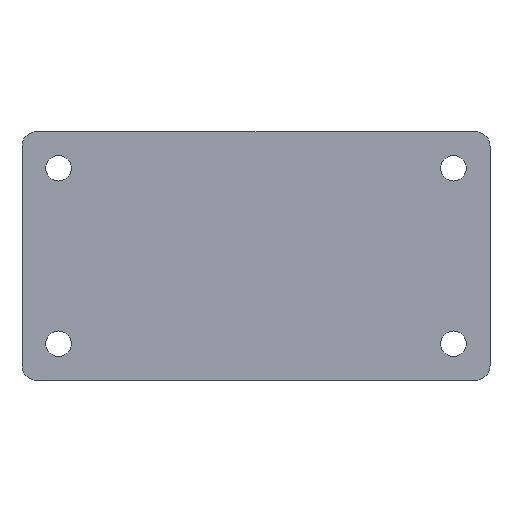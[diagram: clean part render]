
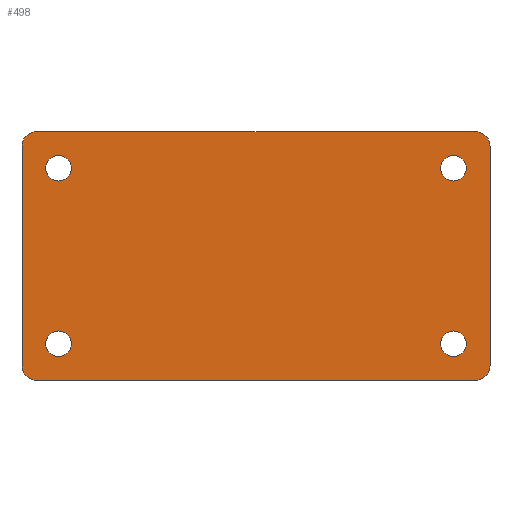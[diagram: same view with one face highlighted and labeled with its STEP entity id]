
A CAD part, front view. The second image highlights one B-rep face of the part: STEP entity #498.
In plain terms, the highlighted planar face has unit normal (0, -1, 0).
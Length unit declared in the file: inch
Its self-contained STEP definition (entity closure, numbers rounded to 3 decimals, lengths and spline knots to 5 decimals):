
#37 = AXIS2_PLACEMENT_3D ( 'NONE', #164, #151, #197 ) ;
#62 = DIRECTION ( 'NONE',  ( 0., -1., 0. ) ) ;
#66 = CARTESIAN_POINT ( 'NONE',  ( -4., 0., 2.125 ) ) ;
#119 = CIRCLE ( 'NONE', #37, 0.21875 ) ;
#142 = VERTEX_POINT ( 'NONE', #2871 ) ;
#151 = DIRECTION ( 'NONE',  ( 0., -1., 0. ) ) ;
#162 = DIRECTION ( 'NONE',  ( 0., 0., -1. ) ) ;
#164 = CARTESIAN_POINT ( 'NONE',  ( -3.375, 0., -1.5 ) ) ;
#166 = CARTESIAN_POINT ( 'NONE',  ( -4., 0., -2.125 ) ) ;
#197 = DIRECTION ( 'NONE',  ( 0., 0., -1. ) ) ;
#207 = CARTESIAN_POINT ( 'NONE',  ( -3.59375, 0., 1.5 ) ) ;
#228 = EDGE_LOOP ( 'NONE', ( #1540, #974 ) ) ;
#260 = AXIS2_PLACEMENT_3D ( 'NONE', #2605, #2597, #162 ) ;
#291 = FACE_OUTER_BOUND ( 'NONE', #2955, .T. ) ;
#316 = ORIENTED_EDGE ( 'NONE', *, *, #1165, .T. ) ;
#348 = AXIS2_PLACEMENT_3D ( 'NONE', #994, #2237, #1629 ) ;
#352 = EDGE_CURVE ( 'NONE', #797, #2248, #1715, .T. ) ;
#375 = LINE ( 'NONE', #166, #2134 ) ;
#442 = CIRCLE ( 'NONE', #2663, 0.25 ) ;
#455 = CARTESIAN_POINT ( 'NONE',  ( 3.75, 0., 1.875 ) ) ;
#467 = DIRECTION ( 'NONE',  ( 0., -1., 0. ) ) ;
#490 = EDGE_LOOP ( 'NONE', ( #558, #1605 ) ) ;
#498 = ADVANCED_FACE ( 'NONE', ( #1220, #2171, #1150, #893, #291 ), #2151, .T. ) ;
#531 = CARTESIAN_POINT ( 'NONE',  ( -3.75, 0., 1.875 ) ) ;
#543 = VERTEX_POINT ( 'NONE', #1795 ) ;
#558 = ORIENTED_EDGE ( 'NONE', *, *, #1103, .F. ) ;
#601 = CARTESIAN_POINT ( 'NONE',  ( -3.75, 0., 2.125 ) ) ;
#635 = AXIS2_PLACEMENT_3D ( 'NONE', #1579, #62, #1811 ) ;
#641 = VERTEX_POINT ( 'NONE', #2528 ) ;
#662 = VECTOR ( 'NONE', #1353, 39.37008 ) ;
#693 = LINE ( 'NONE', #66, #662 ) ;
#697 = CARTESIAN_POINT ( 'NONE',  ( 3.375, 0., 1.5 ) ) ;
#702 = CARTESIAN_POINT ( 'NONE',  ( 4., 0., -1.875 ) ) ;
#705 = DIRECTION ( 'NONE',  ( 0., 0., -1. ) ) ;
#756 = VERTEX_POINT ( 'NONE', #1590 ) ;
#762 = EDGE_CURVE ( 'NONE', #1268, #2358, #119, .T. ) ;
#763 = ORIENTED_EDGE ( 'NONE', *, *, #2351, .F. ) ;
#771 = AXIS2_PLACEMENT_3D ( 'NONE', #2656, #1271, #2851 ) ;
#793 = AXIS2_PLACEMENT_3D ( 'NONE', #1979, #467, #2218 ) ;
#794 = DIRECTION ( 'NONE',  ( 0., 0., -1. ) ) ;
#797 = VERTEX_POINT ( 'NONE', #207 ) ;
#825 = CARTESIAN_POINT ( 'NONE',  ( 3.59375, 0., -1.5 ) ) ;
#851 = VERTEX_POINT ( 'NONE', #601 ) ;
#867 = DIRECTION ( 'NONE',  ( 0., 0., -1. ) ) ;
#893 = FACE_BOUND ( 'NONE', #2571, .T. ) ;
#935 = ORIENTED_EDGE ( 'NONE', *, *, #2117, .F. ) ;
#965 = CARTESIAN_POINT ( 'NONE',  ( -3.75, 0., -1.875 ) ) ;
#966 = CARTESIAN_POINT ( 'NONE',  ( 3.375, 0., -1.5 ) ) ;
#971 = VERTEX_POINT ( 'NONE', #1923 ) ;
#973 = DIRECTION ( 'NONE',  ( 0., 0., -1. ) ) ;
#974 = ORIENTED_EDGE ( 'NONE', *, *, #2197, .F. ) ;
#994 = CARTESIAN_POINT ( 'NONE',  ( -3.375, 0., 1.5 ) ) ;
#1022 = CARTESIAN_POINT ( 'NONE',  ( -3.75, 0., -2.125 ) ) ;
#1041 = CIRCLE ( 'NONE', #635, 0.21875 ) ;
#1057 = EDGE_CURVE ( 'NONE', #1600, #2726, #375, .T. ) ;
#1103 = EDGE_CURVE ( 'NONE', #756, #2327, #1242, .T. ) ;
#1125 = EDGE_CURVE ( 'NONE', #641, #2726, #2102, .T. ) ;
#1131 = DIRECTION ( 'NONE',  ( 0., -1., 0. ) ) ;
#1150 = FACE_BOUND ( 'NONE', #228, .T. ) ;
#1165 = EDGE_CURVE ( 'NONE', #543, #971, #2065, .T. ) ;
#1172 = AXIS2_PLACEMENT_3D ( 'NONE', #2549, #1131, #2750 ) ;
#1173 = CARTESIAN_POINT ( 'NONE',  ( 3.59375, 0., 1.5 ) ) ;
#1194 = CIRCLE ( 'NONE', #793, 0.21875 ) ;
#1202 = CIRCLE ( 'NONE', #771, 0.25 ) ;
#1206 = DIRECTION ( 'NONE',  ( -1., 0., 0. ) ) ;
#1218 = ORIENTED_EDGE ( 'NONE', *, *, #2905, .T. ) ;
#1220 = FACE_BOUND ( 'NONE', #2494, .T. ) ;
#1228 = DIRECTION ( 'NONE',  ( 0., 0., -1. ) ) ;
#1229 = DIRECTION ( 'NONE',  ( 0., 0., -1. ) ) ;
#1242 = CIRCLE ( 'NONE', #2828, 0.21875 ) ;
#1263 = AXIS2_PLACEMENT_3D ( 'NONE', #1408, #2974, #1648 ) ;
#1268 = VERTEX_POINT ( 'NONE', #1479 ) ;
#1271 = DIRECTION ( 'NONE',  ( 0., -1., 0. ) ) ;
#1274 = VERTEX_POINT ( 'NONE', #2623 ) ;
#1282 = EDGE_CURVE ( 'NONE', #1274, #2055, #2290, .T. ) ;
#1310 = ORIENTED_EDGE ( 'NONE', *, *, #1125, .T. ) ;
#1314 = ORIENTED_EDGE ( 'NONE', *, *, #1057, .F. ) ;
#1353 = DIRECTION ( 'NONE',  ( 0., 0., 1. ) ) ;
#1363 = CIRCLE ( 'NONE', #1172, 0.21875 ) ;
#1368 = DIRECTION ( 'NONE',  ( 1., 0., 0. ) ) ;
#1400 = LINE ( 'NONE', #2345, #1435 ) ;
#1408 = CARTESIAN_POINT ( 'NONE',  ( 3.375, 0., -1.5 ) ) ;
#1425 = ORIENTED_EDGE ( 'NONE', *, *, #1282, .F. ) ;
#1435 = VECTOR ( 'NONE', #867, 39.37008 ) ;
#1479 = CARTESIAN_POINT ( 'NONE',  ( -3.59375, 0., -1.5 ) ) ;
#1506 = LINE ( 'NONE', #2728, #1510 ) ;
#1510 = VECTOR ( 'NONE', #1368, 39.37008 ) ;
#1540 = ORIENTED_EDGE ( 'NONE', *, *, #762, .F. ) ;
#1579 = CARTESIAN_POINT ( 'NONE',  ( -3.375, 0., -1.5 ) ) ;
#1590 = CARTESIAN_POINT ( 'NONE',  ( 3.15625, 0., -1.5 ) ) ;
#1593 = CARTESIAN_POINT ( 'NONE',  ( -3.15625, 0., -1.5 ) ) ;
#1600 = VERTEX_POINT ( 'NONE', #2814 ) ;
#1605 = ORIENTED_EDGE ( 'NONE', *, *, #1844, .F. ) ;
#1629 = DIRECTION ( 'NONE',  ( 0., 0., -1. ) ) ;
#1642 = VERTEX_POINT ( 'NONE', #702 ) ;
#1648 = DIRECTION ( 'NONE',  ( 0., 0., -1. ) ) ;
#1661 = CIRCLE ( 'NONE', #1263, 0.21875 ) ;
#1702 = EDGE_CURVE ( 'NONE', #851, #971, #1506, .T. ) ;
#1715 = CIRCLE ( 'NONE', #348, 0.21875 ) ;
#1795 = CARTESIAN_POINT ( 'NONE',  ( 4., 0., 1.875 ) ) ;
#1811 = DIRECTION ( 'NONE',  ( 0., 0., -1. ) ) ;
#1844 = EDGE_CURVE ( 'NONE', #2327, #756, #1661, .T. ) ;
#1900 = CARTESIAN_POINT ( 'NONE',  ( -3.15625, 0., 1.5 ) ) ;
#1907 = ORIENTED_EDGE ( 'NONE', *, *, #1702, .F. ) ;
#1923 = CARTESIAN_POINT ( 'NONE',  ( 3.75, 0., 2.125 ) ) ;
#1926 = EDGE_CURVE ( 'NONE', #2055, #1274, #1363, .T. ) ;
#1940 = EDGE_CURVE ( 'NONE', #543, #1642, #1400, .T. ) ;
#1979 = CARTESIAN_POINT ( 'NONE',  ( -3.375, 0., 1.5 ) ) ;
#2055 = VERTEX_POINT ( 'NONE', #1173 ) ;
#2065 = CIRCLE ( 'NONE', #2709, 0.25 ) ;
#2102 = CIRCLE ( 'NONE', #2776, 0.25 ) ;
#2117 = EDGE_CURVE ( 'NONE', #2248, #797, #1194, .T. ) ;
#2134 = VECTOR ( 'NONE', #1206, 39.37008 ) ;
#2137 = EDGE_CURVE ( 'NONE', #1600, #1642, #1202, .T. ) ;
#2151 = PLANE ( 'NONE',  #260 ) ;
#2160 = ORIENTED_EDGE ( 'NONE', *, *, #1940, .F. ) ;
#2171 = FACE_BOUND ( 'NONE', #490, .T. ) ;
#2197 = EDGE_CURVE ( 'NONE', #2358, #1268, #1041, .T. ) ;
#2199 = DIRECTION ( 'NONE',  ( 0., -1., 0. ) ) ;
#2218 = DIRECTION ( 'NONE',  ( 0., 0., -1. ) ) ;
#2237 = DIRECTION ( 'NONE',  ( 0., -1., 0. ) ) ;
#2248 = VERTEX_POINT ( 'NONE', #1900 ) ;
#2276 = DIRECTION ( 'NONE',  ( 0., -1., 0. ) ) ;
#2280 = ORIENTED_EDGE ( 'NONE', *, *, #352, .F. ) ;
#2290 = CIRCLE ( 'NONE', #2379, 0.21875 ) ;
#2302 = ORIENTED_EDGE ( 'NONE', *, *, #1926, .F. ) ;
#2327 = VERTEX_POINT ( 'NONE', #825 ) ;
#2345 = CARTESIAN_POINT ( 'NONE',  ( 4., 0., 2.125 ) ) ;
#2351 = EDGE_CURVE ( 'NONE', #641, #142, #693, .T. ) ;
#2358 = VERTEX_POINT ( 'NONE', #1593 ) ;
#2379 = AXIS2_PLACEMENT_3D ( 'NONE', #697, #2441, #973 ) ;
#2441 = DIRECTION ( 'NONE',  ( 0., -1., 0. ) ) ;
#2494 = EDGE_LOOP ( 'NONE', ( #1425, #2302 ) ) ;
#2528 = CARTESIAN_POINT ( 'NONE',  ( -4., 0., -1.875 ) ) ;
#2549 = CARTESIAN_POINT ( 'NONE',  ( 3.375, 0., 1.5 ) ) ;
#2571 = EDGE_LOOP ( 'NONE', ( #2280, #935 ) ) ;
#2585 = ORIENTED_EDGE ( 'NONE', *, *, #2137, .T. ) ;
#2597 = DIRECTION ( 'NONE',  ( 0., -1., 0. ) ) ;
#2605 = CARTESIAN_POINT ( 'NONE',  ( -4., 0., -2.125 ) ) ;
#2623 = CARTESIAN_POINT ( 'NONE',  ( 3.15625, 0., 1.5 ) ) ;
#2626 = DIRECTION ( 'NONE',  ( 0., -1., 0. ) ) ;
#2627 = DIRECTION ( 'NONE',  ( 0., -1., 0. ) ) ;
#2656 = CARTESIAN_POINT ( 'NONE',  ( 3.75, 0., -1.875 ) ) ;
#2663 = AXIS2_PLACEMENT_3D ( 'NONE', #531, #2276, #794 ) ;
#2709 = AXIS2_PLACEMENT_3D ( 'NONE', #455, #2199, #705 ) ;
#2726 = VERTEX_POINT ( 'NONE', #1022 ) ;
#2728 = CARTESIAN_POINT ( 'NONE',  ( -4., 0., 2.125 ) ) ;
#2750 = DIRECTION ( 'NONE',  ( 0., 0., -1. ) ) ;
#2776 = AXIS2_PLACEMENT_3D ( 'NONE', #965, #2626, #1228 ) ;
#2814 = CARTESIAN_POINT ( 'NONE',  ( 3.75, 0., -2.125 ) ) ;
#2828 = AXIS2_PLACEMENT_3D ( 'NONE', #966, #2627, #1229 ) ;
#2851 = DIRECTION ( 'NONE',  ( 0., 0., -1. ) ) ;
#2871 = CARTESIAN_POINT ( 'NONE',  ( -4., 0., 1.875 ) ) ;
#2905 = EDGE_CURVE ( 'NONE', #851, #142, #442, .T. ) ;
#2955 = EDGE_LOOP ( 'NONE', ( #1314, #2585, #2160, #316, #1907, #1218, #763, #1310 ) ) ;
#2974 = DIRECTION ( 'NONE',  ( 0., -1., 0. ) ) ;
